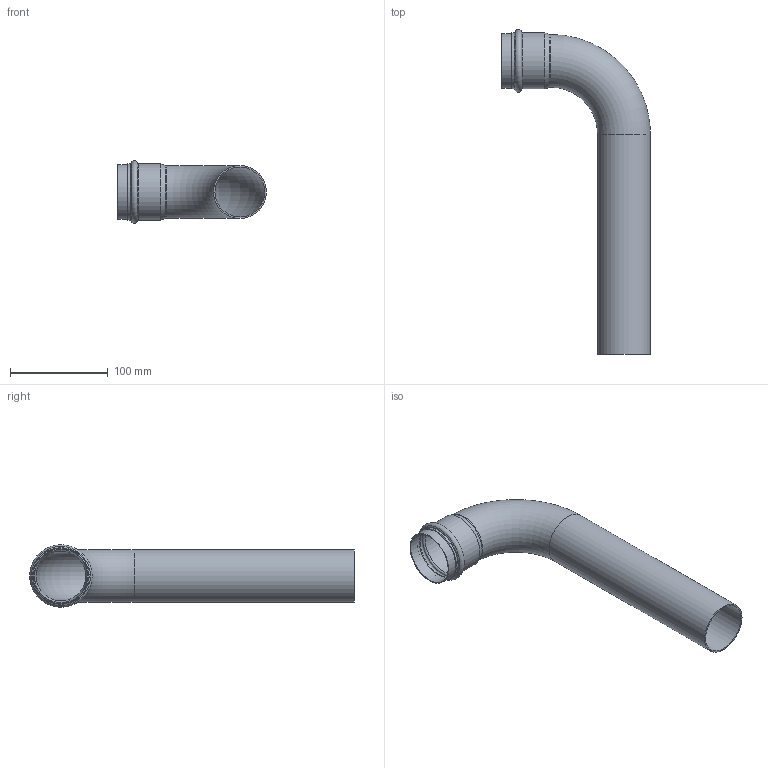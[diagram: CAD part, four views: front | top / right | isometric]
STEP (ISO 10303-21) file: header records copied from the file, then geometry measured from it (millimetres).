
FILE_DESCRIPTION((''),'2;1');
FILE_NAME('G:\Technics\CAD\Bauteile\054\69001L54(1).stp','2008-03-05T15:23:50',('herberg'),(''),'Autodesk Inventor 2008','Autodesk Inventor 2008','');
FILE_SCHEMA(('AUTOMOTIVE_DESIGN { 1 0 10303 214 1 1 1 1 }'));
Length unit declared in the file: millimetre
Products named in the file (1): 69001L54(1)
Bounding box: 152 x 331.94 x 63.89 mm (x, y, z)
Volume: 97721.4 mm3; surface area: 132401.6 mm2
Topology: 1 solids, 1 shells, 24 faces, 48 edges, 26 vertices
Faces by surface type: cylinder 9, torus 5, cone 5, bspline 3, plane 2
Full cylindrical faces by diameter (mm): 51 x2, 54 x2, 54.35 x2, 55.95 x1, 57.35 x2
Entity records: 670 total; most frequent: CARTESIAN_POINT 241, DIRECTION 92, ORIENTED_EDGE 48, EDGE_LOOP 48, AXIS2_PLACEMENT_3D 46, VERTEX_POINT 24, CIRCLE 24, EDGE_CURVE 24
